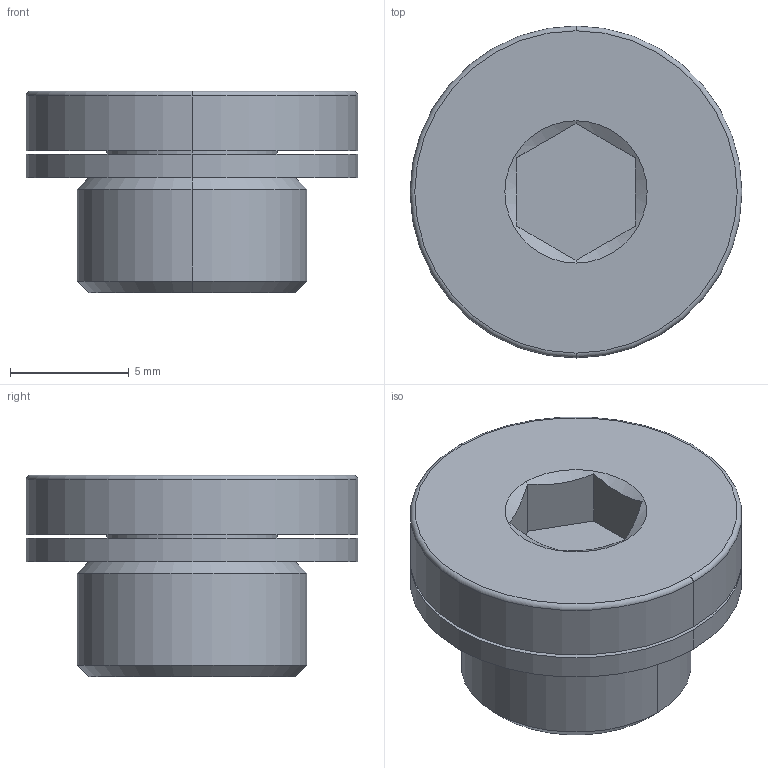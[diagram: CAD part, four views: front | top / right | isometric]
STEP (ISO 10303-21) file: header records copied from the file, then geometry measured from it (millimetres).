
FILE_DESCRIPTION (( 'STEP AP203' ), '1' );
FILE_NAME ('14010077.STEP', '2019-05-30T06:27:46', ( '' ), ( '' ), 'SwSTEP 2.0', 'SolidWorks 2015', '' );
FILE_SCHEMA (( 'CONFIG_CONTROL_DESIGN' ));
Length unit declared in the file: millimetre
Products named in the file (1): 14010077
Bounding box: 14 x 14 x 8.5 mm (x, y, z)
Volume: 840.9 mm3; surface area: 886.6 mm2
Topology: 1 solids, 1 shells, 28 faces, 58 edges, 36 vertices
Faces by surface type: plane 12, cylinder 8, cone 6, torus 2
Entity records: 855 total; most frequent: CARTESIAN_POINT 169, DIRECTION 136, ORIENTED_EDGE 116, EDGE_CURVE 58, AXIS2_PLACEMENT_3D 55, VERTEX_POINT 36, EDGE_LOOP 32, FACE_OUTER_BOUND 28
